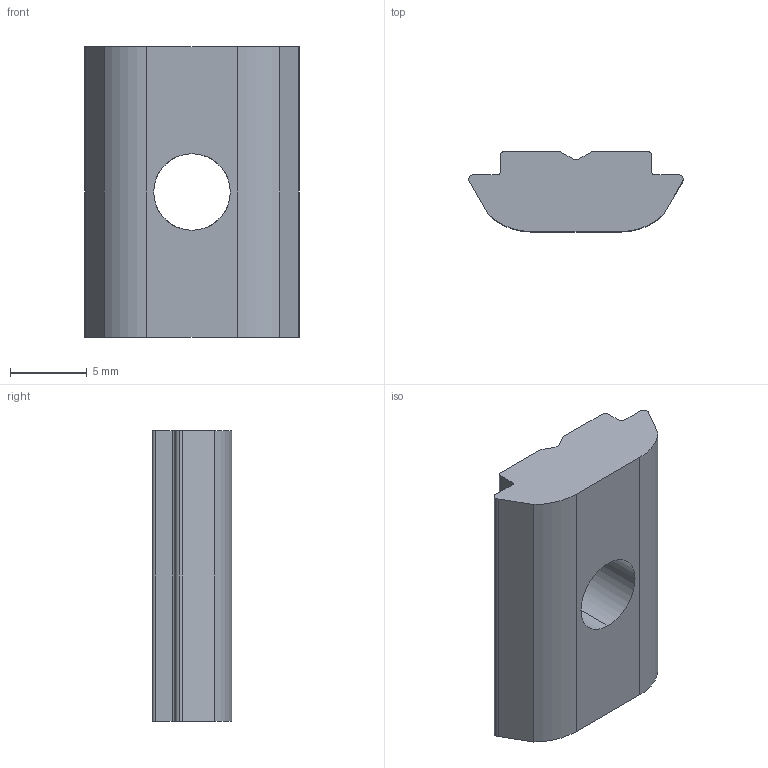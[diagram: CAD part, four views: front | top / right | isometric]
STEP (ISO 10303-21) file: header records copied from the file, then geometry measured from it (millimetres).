
FILE_DESCRIPTION(('STEP AP214'),'1');
FILE_NAME('C:/TPO v2/SharedFS/Outgoing/fath_096166.stp','2016-08-16T21:10:19',('TraceParts'),('TraceParts S.A.'),'Spatial InterOp 3D',' ',' ');
FILE_SCHEMA(('automotive_design'));
Length unit declared in the file: millimetre
Products named in the file (1): fath_096166
Bounding box: 14 x 5.2 x 19 mm (x, y, z)
Volume: 1011 mm3; surface area: 812.9 mm2
Topology: 1 solids, 1 shells, 30 faces, 87 edges, 58 vertices
Faces by surface type: cylinder 15, plane 15
Entity records: 1272 total; most frequent: CARTESIAN_POINT 200, ORIENTED_EDGE 174, DIRECTION 169, EDGE_CURVE 87, AXIS2_PLACEMENT_3D 59, VERTEX_POINT 58, LINE 51, VECTOR 51
